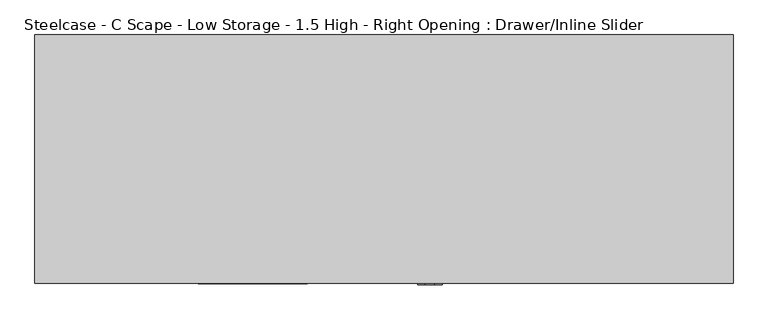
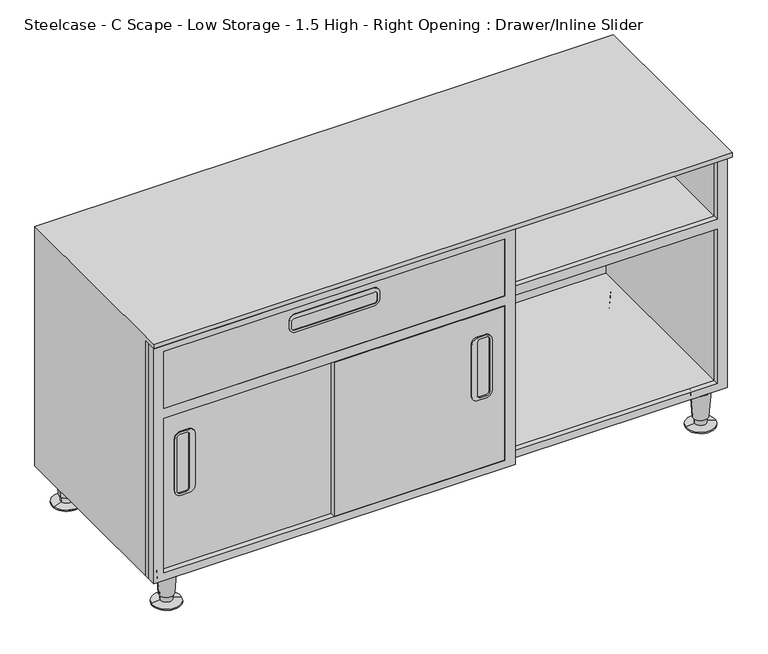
"""IFC4 building model written with IfcOpenShell, lengths in millimetres: furniture geometry, Steelcase - C Scape - Low Storage - 1.5 High - Right Opening : Drawer/Inline Slider."""

from ifc_helpers import new_model, si_unit, point, frame, frame_2d, origin, place, context, project, spatial, polyline, circle_curve, trimmed, segment, composite_curve, outline, extrude, faceted_brep, source, transform, mapped, element, save
from ifc_brep_helpers import plane_surface, cylinder_surface, revolved_surface, advanced_brep


def steelcase_c_scape_low_storage_1_5_high_right_opening_drawer_3b12c943(model_context):
    return source(origin(), model_context, "Body", "SolidModel", [
        advanced_brep(
        [(1200.2097985, -403.1210225, 0.0), (1141.9877015, -394.2130493, 0.0), (1171.09875, -398.6670359, 0.0), (1200.2097985, -403.1210225, 2.5119506), (1141.9877015, -394.2130493, 2.5119506), (1182.860915, -400.4666456, 5.7545598), (1159.336585, -396.8674262, 5.7545598), (1183.5496845, -400.5720272, 19.05), (1158.6478155, -396.7620445, 19.05), (1185.9792714, -400.9437537, 19.05), (1156.2182286, -396.3903181, 19.05), (1189.9296195, -401.5481565, 76.2), (1152.2678805, -395.7859153, 76.2), (1171.09875, -398.6670359, 76.2)],
        [
            (0, 1, circle_curve(frame((1171.09875, -398.6670359, 0.0), z_axis=(0.0, 0.0, -1.0), x_axis=(0.0, 1.0, 0.0)), 29.4498071)),
            (1, 2),
            (2, 0),
            (1, 0, circle_curve(frame((1171.09875, -398.6670359, 0.0), z_axis=(0.0, 0.0, -1.0), x_axis=(0.0, 1.0, 0.0)), 29.4498071)),
            (3, 4, circle_curve(frame((1171.09875, -398.6670359, 2.5119506), z_axis=(0.0, 0.0, -1.0), x_axis=(0.0, 1.0, 0.0)), 29.4498071)),
            (4, 1),
            (0, 3),
            (4, 3, circle_curve(frame((1171.09875, -398.6670359, 2.5119506), z_axis=(0.0, 0.0, -1.0), x_axis=(0.0, 1.0, 0.0)), 29.4498071)),
            (5, 6, circle_curve(frame((1171.09875, -398.6670359, 5.7545598), z_axis=(0.0, 0.0, -1.0), x_axis=(0.0, 1.0, 0.0)), 11.8990387)),
            (6, 4),
            (3, 5),
            (6, 5, circle_curve(frame((1171.09875, -398.6670359, 5.7545598), z_axis=(0.0, 0.0, -1.0), x_axis=(0.0, 1.0, 0.0)), 11.8990387)),
            (7, 8, circle_curve(frame((1171.09875, -398.6670359, 19.05), z_axis=(0.0, 0.0, -1.0), x_axis=(0.0, 1.0, 0.0)), 12.5958232)),
            (8, 6),
            (5, 7),
            (8, 7, circle_curve(frame((1171.09875, -398.6670359, 19.05), z_axis=(0.0, 0.0, -1.0), x_axis=(0.0, 1.0, 0.0)), 12.5958232)),
            (9, 10, circle_curve(frame((1171.09875, -398.6670359, 19.05), z_axis=(0.0, 0.0, -1.0), x_axis=(0.0, 1.0, 0.0)), 15.0536827)),
            (10, 8),
            (7, 9),
            (10, 9, circle_curve(frame((1171.09875, -398.6670359, 19.05), z_axis=(0.0, 0.0, -1.0), x_axis=(0.0, 1.0, 0.0)), 15.0536827)),
            (11, 12, circle_curve(frame((1171.09875, -398.6670359, 76.2), z_axis=(0.0, 0.0, -1.0), x_axis=(0.0, 1.0, 0.0)), 19.05)),
            (12, 10),
            (9, 11),
            (12, 11, circle_curve(frame((1171.09875, -398.6670359, 76.2), z_axis=(0.0, 0.0, -1.0), x_axis=(0.0, 1.0, 0.0)), 19.05)),
            (13, 12),
            (11, 13),
        ],
        [
            plane_surface(frame((1171.09875, -398.6670359, 0.0), z_axis=(0.0, 0.0, -1.0), x_axis=(0.0, 1.0, 0.0))),
            cylinder_surface(frame((1171.09875, -398.6670359, 25.4), z_axis=(0.0, 0.0, 1.0), x_axis=(0.0, 1.0, 0.0)), 29.4498071),
            revolved_surface(polyline([(1171.09875, -369.2172288, 2.5119506), (1171.09875, -386.7679972, 5.7545598)]), (1171.09875, -398.6670359, 25.4), (0.0, 0.0, 1.0)),
            revolved_surface(polyline([(1171.09875, -386.7679972, 5.7545598), (1171.09875, -386.0712127, 19.05)]), (1171.09875, -398.6670359, 25.4), (0.0, 0.0, 1.0)),
            plane_surface(frame((1171.09875, -398.6670359, 19.05), z_axis=(0.0, 0.0, -1.0), x_axis=(0.0, 1.0, 0.0))),
            revolved_surface(polyline([(1171.09875, -383.6133532, 19.05), (1171.09875, -379.6170359, 76.2)]), (1171.09875, -398.6670359, 25.4), (0.0, 0.0, 1.0)),
            plane_surface(frame((1171.09875, -398.6670359, 76.2), z_axis=(0.0, 0.0, 1.0), x_axis=(0.0, 1.0, 0.0))),
        ],
        [
            (0, [[1, 2, 3]]),
            (0, [[4, -3, -2]]),
            (1, [[5, 6, -1, 7]]),
            (1, [[8, -7, -4, -6]]),
            (2, [[9, 10, -5, 11]]),
            (2, [[12, -11, -8, -10]]),
            (3, [[13, 14, -9, 15]]),
            (3, [[16, -15, -12, -14]]),
            (4, [[17, 18, -13, 19]]),
            (4, [[20, -19, -16, -18]]),
            (5, [[21, 22, -17, 23]]),
            (5, [[24, -23, -20, -22]]),
            (6, [[25, -21, 26]]),
            (6, [[-26, -24, -25]]),
        ],
    ),
        advanced_brep(
        [(75.8224611, -403.1210225, 0.0), (17.6003641, -394.2130493, 0.0), (46.7114126, -398.6670359, 0.0), (75.8224611, -403.1210225, 2.5119506), (17.6003641, -394.2130493, 2.5119506), (58.4735776, -400.4666456, 5.7545598), (34.9492476, -396.8674262, 5.7545598), (59.1623471, -400.5720272, 19.05), (34.2604781, -396.7620445, 19.05), (61.5919341, -400.9437537, 19.05), (31.8308912, -396.3903181, 19.05), (65.5422821, -401.5481565, 76.2), (27.8805432, -395.7859153, 76.2), (46.7114126, -398.6670359, 76.2)],
        [
            (0, 1, circle_curve(frame((46.7114126, -398.6670359, 0.0), z_axis=(0.0, 0.0, -1.0), x_axis=(0.0, 1.0, 0.0)), 29.4498071)),
            (1, 2),
            (2, 0),
            (1, 0, circle_curve(frame((46.7114126, -398.6670359, 0.0), z_axis=(0.0, 0.0, -1.0), x_axis=(0.0, 1.0, 0.0)), 29.4498071)),
            (3, 4, circle_curve(frame((46.7114126, -398.6670359, 2.5119506), z_axis=(0.0, 0.0, -1.0), x_axis=(0.0, 1.0, 0.0)), 29.4498071)),
            (4, 1),
            (0, 3),
            (4, 3, circle_curve(frame((46.7114126, -398.6670359, 2.5119506), z_axis=(0.0, 0.0, -1.0), x_axis=(0.0, 1.0, 0.0)), 29.4498071)),
            (5, 6, circle_curve(frame((46.7114126, -398.6670359, 5.7545598), z_axis=(0.0, 0.0, -1.0), x_axis=(0.0, 1.0, 0.0)), 11.8990387)),
            (6, 4),
            (3, 5),
            (6, 5, circle_curve(frame((46.7114126, -398.6670359, 5.7545598), z_axis=(0.0, 0.0, -1.0), x_axis=(0.0, 1.0, 0.0)), 11.8990387)),
            (7, 8, circle_curve(frame((46.7114126, -398.6670359, 19.05), z_axis=(0.0, 0.0, -1.0), x_axis=(0.0, 1.0, 0.0)), 12.5958232)),
            (8, 6),
            (5, 7),
            (8, 7, circle_curve(frame((46.7114126, -398.6670359, 19.05), z_axis=(0.0, 0.0, -1.0), x_axis=(0.0, 1.0, 0.0)), 12.5958232)),
            (9, 10, circle_curve(frame((46.7114126, -398.6670359, 19.05), z_axis=(0.0, 0.0, -1.0), x_axis=(0.0, 1.0, 0.0)), 15.0536827)),
            (10, 8),
            (7, 9),
            (10, 9, circle_curve(frame((46.7114126, -398.6670359, 19.05), z_axis=(0.0, 0.0, -1.0), x_axis=(0.0, 1.0, 0.0)), 15.0536827)),
            (11, 12, circle_curve(frame((46.7114126, -398.6670359, 76.2), z_axis=(0.0, 0.0, -1.0), x_axis=(0.0, 1.0, 0.0)), 19.05)),
            (12, 10),
            (9, 11),
            (12, 11, circle_curve(frame((46.7114126, -398.6670359, 76.2), z_axis=(0.0, 0.0, -1.0), x_axis=(0.0, 1.0, 0.0)), 19.05)),
            (13, 12),
            (11, 13),
        ],
        [
            plane_surface(frame((46.7114126, -398.6670359, 0.0), z_axis=(0.0, 0.0, -1.0), x_axis=(0.0, 1.0, 0.0))),
            cylinder_surface(frame((46.7114126, -398.6670359, 25.4), z_axis=(0.0, 0.0, 1.0), x_axis=(0.0, 1.0, 0.0)), 29.4498071),
            revolved_surface(polyline([(46.7114126, -369.2172288, 2.5119506), (46.7114126, -386.7679972, 5.7545598)]), (46.7114126, -398.6670359, 25.4), (0.0, 0.0, 1.0)),
            revolved_surface(polyline([(46.7114126, -386.7679972, 5.7545598), (46.7114126, -386.0712127, 19.05)]), (46.7114126, -398.6670359, 25.4), (0.0, 0.0, 1.0)),
            plane_surface(frame((46.7114126, -398.6670359, 19.05), z_axis=(0.0, 0.0, -1.0), x_axis=(0.0, 1.0, 0.0))),
            revolved_surface(polyline([(46.7114126, -383.6133532, 19.05), (46.7114126, -379.6170359, 76.2)]), (46.7114126, -398.6670359, 25.4), (0.0, 0.0, 1.0)),
            plane_surface(frame((46.7114126, -398.6670359, 76.2), z_axis=(0.0, 0.0, 1.0), x_axis=(0.0, 1.0, 0.0))),
        ],
        [
            (0, [[1, 2, 3]]),
            (0, [[4, -3, -2]]),
            (1, [[5, 6, -1, 7]]),
            (1, [[8, -7, -4, -6]]),
            (2, [[9, 10, -5, 11]]),
            (2, [[12, -11, -8, -10]]),
            (3, [[13, 14, -9, 15]]),
            (3, [[16, -15, -12, -14]]),
            (4, [[17, 18, -13, 19]]),
            (4, [[20, -19, -16, -18]]),
            (5, [[21, 22, -17, 23]]),
            (5, [[24, -23, -20, -22]]),
            (6, [[25, -21, 26]]),
            (6, [[-26, -24, -25]]),
        ],
    ),
        extrude(outline(composite_curve([segment(trimmed(circle_curve(frame_2d((260.4424033, 680.8477152)), 12.7015503), [point((260.4424033, 668.1461649))], [point((247.740853, 680.8477152))], False, "CARTESIAN"), True, "CONTINUOUS"), segment(polyline([(247.740853, 680.8477152), (247.740853, 697.737382)]), True, "CONTINUOUS"), segment(trimmed(circle_curve(frame_2d((260.4424033, 697.737382)), 12.7015503), [point((247.740853, 697.737382))], [point((260.4424033, 710.4389323))], False, "CARTESIAN"), True, "CONTINUOUS"), segment(polyline([(260.4424033, 710.4389323), (374.7393148, 710.4389323)]), True, "CONTINUOUS"), segment(trimmed(circle_curve(frame_2d((374.7393148, 697.737382)), 12.7015503), [point((374.7393148, 710.4389323))], [point((387.4408651, 697.737382))], False, "CARTESIAN"), True, "CONTINUOUS"), segment(polyline([(387.4408651, 697.737382), (387.4408651, 680.8477152)]), True, "CONTINUOUS"), segment(trimmed(circle_curve(frame_2d((374.7393148, 680.8477152)), 12.7015503), [point((387.4408651, 680.8477152))], [point((374.7393148, 668.1461649))], False, "CARTESIAN"), True, "CONTINUOUS"), segment(polyline([(374.7393148, 668.1461649), (260.4424033, 668.1461649)]), True, "CONTINUOUS")], self_intersect=False), holes=[composite_curve([segment(trimmed(circle_curve(frame_2d((376.2390416, 686.56132)), 6.3484497), [point((376.2390416, 680.2128702))], [point((382.5874913, 686.56132))], True, "CARTESIAN"), True, "CONTINUOUS"), segment(polyline([(382.5874913, 686.56132), (382.5874913, 699.2628702)]), True, "CONTINUOUS"), segment(trimmed(circle_curve(frame_2d((376.2390416, 699.2628702)), 6.3484497), [point((382.5874913, 699.2628702))], [point((376.2390416, 705.61132))], True, "CARTESIAN"), True, "CONTINUOUS"), segment(polyline([(376.2390416, 705.61132), (258.8895002, 705.61132)]), True, "CONTINUOUS"), segment(trimmed(circle_curve(frame_2d((258.8895002, 699.261326)), 6.3499939), [point((258.8895002, 705.61132))], [point((252.5395063, 699.261326))], True, "CARTESIAN"), True, "CONTINUOUS"), segment(polyline([(252.5395063, 699.261326), (252.5395063, 686.56132)]), True, "CONTINUOUS"), segment(trimmed(circle_curve(frame_2d((258.887956, 686.56132)), 6.3484497), [point((252.5395063, 686.56132))], [point((258.887956, 680.2128702))], True, "CARTESIAN"), True, "CONTINUOUS"), segment(polyline([(258.887956, 680.2128702), (376.2390416, 680.2128702)]), True, "CONTINUOUS")], self_intersect=False)]), frame((0.0, -436.1181141, 0.0), z_axis=(0.0, 1.0, 0.0), x_axis=(0.0, 0.0, 1.0)), (0.0, 0.0, 1.0), 3.0481141),
        extrude(outline(polyline([(599.44, 0.0), (76.2, 0.0), (76.2, 760.73), (599.44, 760.73), (599.44, 0.0)]), holes=[polyline([(436.9435121, 21.3256814), (436.9435121, 738.5047189), (92.7100024, 738.5047189), (92.7100024, 21.3256814), (436.9435121, 21.3256814)]), polyline([(585.724, 21.3382324), (585.724, 738.5047189), (458.7875121, 738.5047189), (458.7875121, 21.3382324), (585.724, 21.3382324)])]), frame((0.0, -433.07, 0.0), z_axis=(0.0, 1.0, 0.0), x_axis=(0.0, 0.0, 1.0)), (0.0, 0.0, 1.0), 17.7787598),
        extrude(outline(polyline([(599.44, 1217.93), (599.44, 0.0), (76.2, 0.0), (76.2, 1217.93), (599.44, 1217.93)]), holes=[polyline([(436.9435121, 21.3256814), (436.9435121, 738.5047189), (92.7100024, 738.5047189), (92.7100024, 21.3256814), (436.9435121, 21.3256814)]), polyline([(92.7100024, 1196.5961479), (92.7100024, 761.365), (436.9435121, 761.365), (436.9435121, 1196.5961479), (92.7100024, 1196.5961479)]), polyline([(585.724, 1196.5961479), (458.7875121, 1196.5961479), (458.7875121, 761.365), (585.724, 761.365), (585.724, 1196.5961479)]), polyline([(585.724, 21.3382324), (585.724, 738.5047189), (458.7875121, 738.5047189), (458.7875121, 21.3382324), (585.724, 21.3382324)])]), frame((0.0, -415.2912402, 0.0), z_axis=(0.0, 1.0, 0.0), x_axis=(0.0, 0.0, 1.0)), (0.0, 0.0, 1.0), 10.9228992),
        extrude(outline(composite_curve([segment(trimmed(circle_curve(frame_2d((560.7050073, 297.8147442)), 12.7), [point((573.4050073, 297.8147442))], [point((560.7050073, 285.1147442))], False, "CARTESIAN"), True, "CONTINUOUS"), segment(polyline([(560.7050073, 285.1147442), (546.1000363, 285.1147442)]), True, "CONTINUOUS"), segment(trimmed(circle_curve(frame_2d((546.1000363, 297.8147442)), 12.7), [point((546.1000363, 285.1147442))], [point((533.4000363, 297.8147442))], False, "CARTESIAN"), True, "CONTINUOUS"), segment(polyline([(533.4000363, 297.8147442), (533.4000363, 380.0475), (533.4000363, 462.2802558)]), True, "CONTINUOUS"), segment(trimmed(circle_curve(frame_2d((546.1000363, 462.2802558)), 12.7), [point((533.4000363, 462.2802558))], [point((546.1000363, 474.9802558))], False, "CARTESIAN"), True, "CONTINUOUS"), segment(polyline([(546.1000363, 474.9802558), (560.7050073, 474.9802558)]), True, "CONTINUOUS"), segment(trimmed(circle_curve(frame_2d((560.7050073, 462.2802558)), 12.7), [point((560.7050073, 474.9802558))], [point((573.4050073, 462.2802558))], False, "CARTESIAN"), True, "CONTINUOUS"), segment(polyline([(573.4050073, 462.2802558), (573.4050073, 380.0475), (573.4050073, 297.8147442)]), True, "CONTINUOUS")], self_intersect=False), holes=[composite_curve([segment(trimmed(circle_curve(frame_2d((557.2760257, 296.2923565)), 6.35), [point((557.2760257, 289.9423565))], [point((563.6260257, 296.2923565))], True, "CARTESIAN"), True, "CONTINUOUS"), segment(polyline([(563.6260257, 296.2923565), (563.6260257, 380.0475), (563.6260257, 463.8026435)]), True, "CONTINUOUS"), segment(trimmed(circle_curve(frame_2d((557.2760257, 463.8026435)), 6.35), [point((563.6260257, 463.8026435))], [point((557.2760257, 470.1526435))], True, "CARTESIAN"), True, "CONTINUOUS"), segment(polyline([(557.2760257, 470.1526435), (544.5760136, 470.1526435)]), True, "CONTINUOUS"), segment(trimmed(circle_curve(frame_2d((544.5760136, 463.8026435)), 6.35), [point((544.5760136, 470.1526435))], [point((538.2260136, 463.8026435))], True, "CARTESIAN"), True, "CONTINUOUS"), segment(polyline([(538.2260136, 463.8026435), (538.2260136, 380.0475), (538.2260136, 296.2923565)]), True, "CONTINUOUS"), segment(trimmed(circle_curve(frame_2d((544.5760136, 296.2923565)), 6.35), [point((538.2260136, 296.2923565))], [point((544.5760136, 289.9423565))], True, "CARTESIAN"), True, "CONTINUOUS"), segment(polyline([(544.5760136, 289.9423565), (557.2760257, 289.9423565)]), True, "CONTINUOUS")], self_intersect=False)]), frame((0.0, -434.34, 0.0), z_axis=(0.0, 1.0, 0.0), x_axis=(0.0, 0.0, 1.0)), (0.0, 0.0, 1.0), 6.35),
        advanced_brep(
        [(1189.9296195, -31.5218435, 76.2), (1152.2678805, -37.2840847, 76.2), (1171.09875, -34.4029641, 76.2), (1185.9792714, -32.1262463, 19.05), (1156.2182286, -36.6796819, 19.05), (1183.5496845, -32.4979728, 19.05), (1158.6478155, -36.3079555, 19.05), (1182.860915, -32.6033544, 5.7545598), (1159.336585, -36.2025738, 5.7545598), (1200.2097985, -29.9489775, 2.5119506), (1141.9877015, -38.8569507, 2.5119506), (1200.2097985, -29.9489775, 0.0), (1141.9877015, -38.8569507, 0.0), (1171.09875, -34.4029641, 0.0)],
        [
            (0, 1, circle_curve(frame((1171.09875, -34.4029641, 76.2), z_axis=(0.0, 0.0, 1.0), x_axis=(0.0, -1.0, 0.0)), 19.05)),
            (1, 2),
            (2, 0),
            (1, 0, circle_curve(frame((1171.09875, -34.4029641, 76.2), z_axis=(0.0, 0.0, 1.0), x_axis=(0.0, -1.0, 0.0)), 19.05)),
            (3, 4, circle_curve(frame((1171.09875, -34.4029641, 19.05), z_axis=(0.0, 0.0, 1.0), x_axis=(0.0, -1.0, 0.0)), 15.0536827)),
            (4, 1),
            (0, 3),
            (4, 3, circle_curve(frame((1171.09875, -34.4029641, 19.05), z_axis=(0.0, 0.0, 1.0), x_axis=(0.0, -1.0, 0.0)), 15.0536827)),
            (5, 6, circle_curve(frame((1171.09875, -34.4029641, 19.05), z_axis=(0.0, 0.0, 1.0), x_axis=(0.0, -1.0, 0.0)), 12.5958232)),
            (6, 4),
            (3, 5),
            (6, 5, circle_curve(frame((1171.09875, -34.4029641, 19.05), z_axis=(0.0, 0.0, 1.0), x_axis=(0.0, -1.0, 0.0)), 12.5958232)),
            (7, 8, circle_curve(frame((1171.09875, -34.4029641, 5.7545598), z_axis=(0.0, 0.0, 1.0), x_axis=(0.0, -1.0, 0.0)), 11.8990387)),
            (8, 6),
            (5, 7),
            (8, 7, circle_curve(frame((1171.09875, -34.4029641, 5.7545598), z_axis=(0.0, 0.0, 1.0), x_axis=(0.0, -1.0, 0.0)), 11.8990387)),
            (9, 10, circle_curve(frame((1171.09875, -34.4029641, 2.5119506), z_axis=(0.0, 0.0, 1.0), x_axis=(0.0, -1.0, 0.0)), 29.4498071)),
            (10, 8),
            (7, 9),
            (10, 9, circle_curve(frame((1171.09875, -34.4029641, 2.5119506), z_axis=(0.0, 0.0, 1.0), x_axis=(0.0, -1.0, 0.0)), 29.4498071)),
            (11, 12, circle_curve(frame((1171.09875, -34.4029641, 0.0), z_axis=(0.0, 0.0, 1.0), x_axis=(0.0, -1.0, 0.0)), 29.4498071)),
            (12, 10),
            (9, 11),
            (12, 11, circle_curve(frame((1171.09875, -34.4029641, 0.0), z_axis=(0.0, 0.0, 1.0), x_axis=(0.0, -1.0, 0.0)), 29.4498071)),
            (13, 12),
            (11, 13),
        ],
        [
            plane_surface(frame((1171.09875, -34.4029641, 76.2), z_axis=(0.0, 0.0, 1.0), x_axis=(0.0, -1.0, 0.0))),
            revolved_surface(polyline([(1171.09875, -53.4529641, 76.2), (1171.09875, -49.4566468, 19.05)]), (1171.09875, -34.4029641, 25.4), (0.0, 0.0, -1.0)),
            plane_surface(frame((1171.09875, -34.4029641, 19.05), z_axis=(0.0, 0.0, -1.0), x_axis=(0.0, -1.0, 0.0))),
            revolved_surface(polyline([(1171.09875, -46.9987873, 19.05), (1171.09875, -46.3020028, 5.7545598)]), (1171.09875, -34.4029641, 25.4), (0.0, 0.0, -1.0)),
            revolved_surface(polyline([(1171.09875, -46.3020028, 5.7545598), (1171.09875, -63.8527712, 2.5119506)]), (1171.09875, -34.4029641, 25.4), (0.0, 0.0, -1.0)),
            cylinder_surface(frame((1171.09875, -34.4029641, 25.4), z_axis=(0.0, 0.0, -1.0), x_axis=(0.0, -1.0, 0.0)), 29.4498071),
            plane_surface(frame((1171.09875, -34.4029641, 0.0), z_axis=(0.0, 0.0, -1.0), x_axis=(0.0, -1.0, 0.0))),
        ],
        [
            (0, [[1, 2, 3]]),
            (0, [[4, -3, -2]]),
            (1, [[5, 6, -1, 7]]),
            (1, [[8, -7, -4, -6]]),
            (2, [[9, 10, -5, 11]]),
            (2, [[12, -11, -8, -10]]),
            (3, [[13, 14, -9, 15]]),
            (3, [[16, -15, -12, -14]]),
            (4, [[17, 18, -13, 19]]),
            (4, [[20, -19, -16, -18]]),
            (5, [[21, 22, -17, 23]]),
            (5, [[24, -23, -20, -22]]),
            (6, [[25, -21, 26]]),
            (6, [[-26, -24, -25]]),
        ],
    ),
        advanced_brep(
        [(65.5422821, -31.5218435, 76.2), (27.8805432, -37.2840847, 76.2), (46.7114126, -34.4029641, 76.2), (61.5919341, -32.1262463, 19.05), (31.8308912, -36.6796819, 19.05), (59.1623471, -32.4979728, 19.05), (34.2604781, -36.3079555, 19.05), (58.4735776, -32.6033544, 5.7545598), (34.9492476, -36.2025738, 5.7545598), (75.8224611, -29.9489775, 2.5119506), (17.6003641, -38.8569507, 2.5119506), (75.8224611, -29.9489775, 0.0), (17.6003641, -38.8569507, 0.0), (46.7114126, -34.4029641, 0.0)],
        [
            (0, 1, circle_curve(frame((46.7114126, -34.4029641, 76.2), z_axis=(0.0, 0.0, 1.0), x_axis=(0.0, -1.0, 0.0)), 19.05)),
            (1, 2),
            (2, 0),
            (1, 0, circle_curve(frame((46.7114126, -34.4029641, 76.2), z_axis=(0.0, 0.0, 1.0), x_axis=(0.0, -1.0, 0.0)), 19.05)),
            (3, 4, circle_curve(frame((46.7114126, -34.4029641, 19.05), z_axis=(0.0, 0.0, 1.0), x_axis=(0.0, -1.0, 0.0)), 15.0536827)),
            (4, 1),
            (0, 3),
            (4, 3, circle_curve(frame((46.7114126, -34.4029641, 19.05), z_axis=(0.0, 0.0, 1.0), x_axis=(0.0, -1.0, 0.0)), 15.0536827)),
            (5, 6, circle_curve(frame((46.7114126, -34.4029641, 19.05), z_axis=(0.0, 0.0, 1.0), x_axis=(0.0, -1.0, 0.0)), 12.5958232)),
            (6, 4),
            (3, 5),
            (6, 5, circle_curve(frame((46.7114126, -34.4029641, 19.05), z_axis=(0.0, 0.0, 1.0), x_axis=(0.0, -1.0, 0.0)), 12.5958232)),
            (7, 8, circle_curve(frame((46.7114126, -34.4029641, 5.7545598), z_axis=(0.0, 0.0, 1.0), x_axis=(0.0, -1.0, 0.0)), 11.8990387)),
            (8, 6),
            (5, 7),
            (8, 7, circle_curve(frame((46.7114126, -34.4029641, 5.7545598), z_axis=(0.0, 0.0, 1.0), x_axis=(0.0, -1.0, 0.0)), 11.8990387)),
            (9, 10, circle_curve(frame((46.7114126, -34.4029641, 2.5119506), z_axis=(0.0, 0.0, 1.0), x_axis=(0.0, -1.0, 0.0)), 29.4498071)),
            (10, 8),
            (7, 9),
            (10, 9, circle_curve(frame((46.7114126, -34.4029641, 2.5119506), z_axis=(0.0, 0.0, 1.0), x_axis=(0.0, -1.0, 0.0)), 29.4498071)),
            (11, 12, circle_curve(frame((46.7114126, -34.4029641, 0.0), z_axis=(0.0, 0.0, 1.0), x_axis=(0.0, -1.0, 0.0)), 29.4498071)),
            (12, 10),
            (9, 11),
            (12, 11, circle_curve(frame((46.7114126, -34.4029641, 0.0), z_axis=(0.0, 0.0, 1.0), x_axis=(0.0, -1.0, 0.0)), 29.4498071)),
            (13, 12),
            (11, 13),
        ],
        [
            plane_surface(frame((46.7114126, -34.4029641, 76.2), z_axis=(0.0, 0.0, 1.0), x_axis=(0.0, -1.0, 0.0))),
            revolved_surface(polyline([(46.7114126, -53.4529641, 76.2), (46.7114126, -49.4566468, 19.05)]), (46.7114126, -34.4029641, 25.4), (0.0, 0.0, -1.0)),
            plane_surface(frame((46.7114126, -34.4029641, 19.05), z_axis=(0.0, 0.0, -1.0), x_axis=(0.0, -1.0, 0.0))),
            revolved_surface(polyline([(46.7114126, -46.9987873, 19.05), (46.7114126, -46.3020028, 5.7545598)]), (46.7114126, -34.4029641, 25.4), (0.0, 0.0, -1.0)),
            revolved_surface(polyline([(46.7114126, -46.3020028, 5.7545598), (46.7114126, -63.8527712, 2.5119506)]), (46.7114126, -34.4029641, 25.4), (0.0, 0.0, -1.0)),
            cylinder_surface(frame((46.7114126, -34.4029641, 25.4), z_axis=(0.0, 0.0, -1.0), x_axis=(0.0, -1.0, 0.0)), 29.4498071),
            plane_surface(frame((46.7114126, -34.4029641, 0.0), z_axis=(0.0, 0.0, -1.0), x_axis=(0.0, -1.0, 0.0))),
        ],
        [
            (0, [[1, 2, 3]]),
            (0, [[4, -3, -2]]),
            (1, [[5, 6, -1, 7]]),
            (1, [[8, -7, -4, -6]]),
            (2, [[9, 10, -5, 11]]),
            (2, [[12, -11, -8, -10]]),
            (3, [[13, 14, -9, 15]]),
            (3, [[16, -15, -12, -14]]),
            (4, [[17, 18, -13, 19]]),
            (4, [[20, -19, -16, -18]]),
            (5, [[21, 22, -17, 23]]),
            (5, [[24, -23, -20, -22]]),
            (6, [[25, -21, 26]]),
            (6, [[-26, -24, -25]]),
        ],
    ),
        extrude(outline(polyline([(760.73, -415.2912402), (760.73, -433.07), (0.0, -433.07), (0.0, -415.2912402), (760.73, -415.2912402)])), frame((0.0, 0.0, 458.7875121), z_axis=(0.0, 0.0, 1.0), x_axis=(1.0, 0.0, 0.0)), (0.0, 0.0, 1.0), 140.6524879),
        faceted_brep([(0.0, 0.0, 609.6), (1217.93, 0.0, 609.6), (1217.93, 0.0, 76.2), (0.0, 0.0, 76.2), (0.0, -433.07, 609.6), (0.0, -404.3683411, 76.2), (0.0, -404.3683411, 599.44), (0.0, -433.07, 599.44), (21.3382324, -404.3683411, 599.44), (1217.93, -404.3683411, 76.2), (1217.93, -404.3683411, 599.44), (1196.5961479, -404.3683411, 599.44), (1196.5961479, -404.3683411, 458.7875121), (760.73, -404.3683411, 458.7875121), (760.73, -404.3683411, 599.44), (754.3812797, -404.3683411, 599.44), (754.3812797, -404.3683411, 458.7875121), (21.3382324, -404.3683411, 458.7875121), (1196.5961479, -404.3683411, 450.8499879), (1196.5961479, -404.3683411, 92.7100024), (760.73, -404.3683411, 92.7100024), (760.73, -404.3683411, 450.8499879), (754.3812797, -404.3683411, 450.8499879), (754.3812797, -404.3683411, 92.7100024), (21.3382324, -404.3683411, 92.7100024), (21.3382324, -404.3683411, 450.8499879), (21.3382324, -9.525, 599.44), (21.3382324, -9.525, 458.7875121), (21.3382324, -9.525, 92.7100024), (21.3382324, -9.525, 450.8499879), (754.3812797, -9.525, 599.44), (754.3812797, -9.525, 458.7875121), (754.3812797, -9.525, 92.7100024), (754.3812797, -9.525, 450.8499879), (760.73, -9.525, 599.44), (760.73, -9.525, 458.7875121), (760.73, -9.525, 92.7100024), (760.73, -9.525, 450.8499879), (1196.5961479, -9.525, 599.44), (1196.5961479, -9.525, 458.7875121), (1196.5961479, -9.525, 92.7100024), (1196.5961479, -9.525, 450.8499879), (1217.93, -433.07, 609.6), (1217.93, -433.07, 599.44)], [[[0, 1, 2, 3]], [[4, 0, 3, 5, 6, 7]], [[8, 6, 5, 9, 10, 11, 12, 13, 14, 15, 16, 17], [18, 19, 20, 21], [22, 23, 24, 25]], [[26, 8, 17, 27]], [[25, 24, 28, 29]], [[30, 26, 27, 31]], [[29, 28, 32, 33]], [[15, 30, 31, 16]], [[33, 32, 23, 22]], [[34, 14, 13, 35]], [[21, 20, 36, 37]], [[38, 34, 35, 39]], [[37, 36, 40, 41]], [[11, 38, 39, 12]], [[41, 40, 19, 18]], [[2, 1, 42, 43, 10, 9]], [[1, 0, 4, 42]], [[43, 7, 6, 8, 26, 30, 15, 14, 34, 38, 11, 10]], [[42, 4, 7, 43]], [[13, 12, 39, 35]], [[17, 16, 31, 27]], [[18, 21, 37, 41]], [[22, 25, 29, 33]], [[20, 19, 40, 36]], [[24, 23, 32, 28]], [[2, 9, 5, 3]]]),
        extrude(outline(polyline([(380.0475, -421.6443408), (738.5047189, -421.6443408), (738.5047189, -433.07), (380.0475, -433.07), (380.0475, -421.6443408)])), frame((0.0, 0.0, 92.7100024), z_axis=(0.0, 0.0, 1.0), x_axis=(1.0, 0.0, 0.0)), (0.0, 0.0, 1.0), 343.0905044),
        extrude(outline(polyline([(380.0475, -415.2912402), (380.0475, -421.6443408), (21.3382324, -421.6443408), (21.3382324, -415.2912402), (380.0475, -415.2912402)])), frame((0.0, 0.0, 92.7100024), z_axis=(0.0, 0.0, 1.0), x_axis=(1.0, 0.0, 0.0)), (0.0, 0.0, 1.0), 358.1399855),
        extrude(outline(composite_curve([segment(polyline([(259.2993979, 91.9488351), (374.7393148, 91.9488351)]), True, "CONTINUOUS"), segment(trimmed(circle_curve(frame_2d((374.7393148, 79.2472848)), 12.7015503), [point((374.7393148, 91.9488351))], [point((387.4408651, 79.2472848))], False, "CARTESIAN"), True, "CONTINUOUS"), segment(polyline([(387.4408651, 79.2472848), (387.4408651, 62.357618)]), True, "CONTINUOUS"), segment(trimmed(circle_curve(frame_2d((374.7393148, 62.357618)), 12.7015503), [point((387.4408651, 62.357618))], [point((374.7393148, 49.6560677))], False, "CARTESIAN"), True, "CONTINUOUS"), segment(polyline([(374.7393148, 49.6560677), (259.2993979, 49.6560677)]), True, "CONTINUOUS"), segment(trimmed(circle_curve(frame_2d((259.2993979, 62.357618)), 12.7015503), [point((259.2993979, 49.6560677))], [point((246.5978477, 62.357618))], False, "CARTESIAN"), True, "CONTINUOUS"), segment(polyline([(246.5978477, 62.357618), (246.5978477, 79.2472848)]), True, "CONTINUOUS"), segment(trimmed(circle_curve(frame_2d((259.2993979, 79.2472848)), 12.7015503), [point((246.5978477, 79.2472848))], [point((259.2993979, 91.9488351))], False, "CARTESIAN"), True, "CONTINUOUS")], self_intersect=False), holes=[composite_curve([segment(polyline([(376.2390416, 79.8821298), (257.7449507, 79.8821298)]), True, "CONTINUOUS"), segment(trimmed(circle_curve(frame_2d((257.7449507, 73.53368)), 6.3484497), [point((257.7449507, 79.8821298))], [point((251.396501, 73.53368))], True, "CARTESIAN"), True, "CONTINUOUS"), segment(polyline([(251.396501, 73.53368), (251.396501, 60.833674)]), True, "CONTINUOUS"), segment(trimmed(circle_curve(frame_2d((257.7464949, 60.833674)), 6.3499939), [point((251.396501, 60.833674))], [point((257.7464949, 54.48368))], True, "CARTESIAN"), True, "CONTINUOUS"), segment(polyline([(257.7464949, 54.48368), (376.2390416, 54.48368)]), True, "CONTINUOUS"), segment(trimmed(circle_curve(frame_2d((376.2390416, 60.8321298)), 6.3484497), [point((376.2390416, 54.48368))], [point((382.5874913, 60.8321298))], True, "CARTESIAN"), True, "CONTINUOUS"), segment(polyline([(382.5874913, 60.8321298), (382.5874913, 73.53368)]), True, "CONTINUOUS"), segment(trimmed(circle_curve(frame_2d((376.2390416, 73.53368)), 6.3484497), [point((382.5874913, 73.53368))], [point((376.2390416, 79.8821298))], True, "CARTESIAN"), True, "CONTINUOUS")], self_intersect=False)]), frame((0.0, -424.6357169, 0.0), z_axis=(0.0, 1.0, 0.0), x_axis=(0.0, 0.0, 1.0)), (0.0, 0.0, 1.0), 2.9913761),
    ])


if __name__ == "__main__":
    model = new_model("IFC4")
    model_context = context("Model", 3, world=origin())
    ifc_project = project(units=[si_unit("LENGTHUNIT", "METRE", prefix="MILLI")], contexts=[model_context])
    site = spatial("IfcSite", under=ifc_project)
    building = spatial("IfcBuilding", under=site)
    placement = place(None, origin())
    steelcase_c_scape_low_storage_1_5_high_right_opening_drawer_shape = steelcase_c_scape_low_storage_1_5_high_right_opening_drawer_3b12c943(model_context)
    element("IfcFurniture", 1, ObjectType="Steelcase - C Scape - Low Storage - 1.5 High - Right Opening : Drawer/Inline Slider", at=placement, inside=building, context=model_context, shape_type="MappedRepresentation", body=[
        mapped(steelcase_c_scape_low_storage_1_5_high_right_opening_drawer_shape, transform((0.0, 0.0, 0.0), x_axis=(1.0, 0.0, 0.0), y_axis=(0.0, 1.0, 0.0), z_axis=(0.0, 0.0, 1.0))),
    ])
    save(model, "model.ifc")
